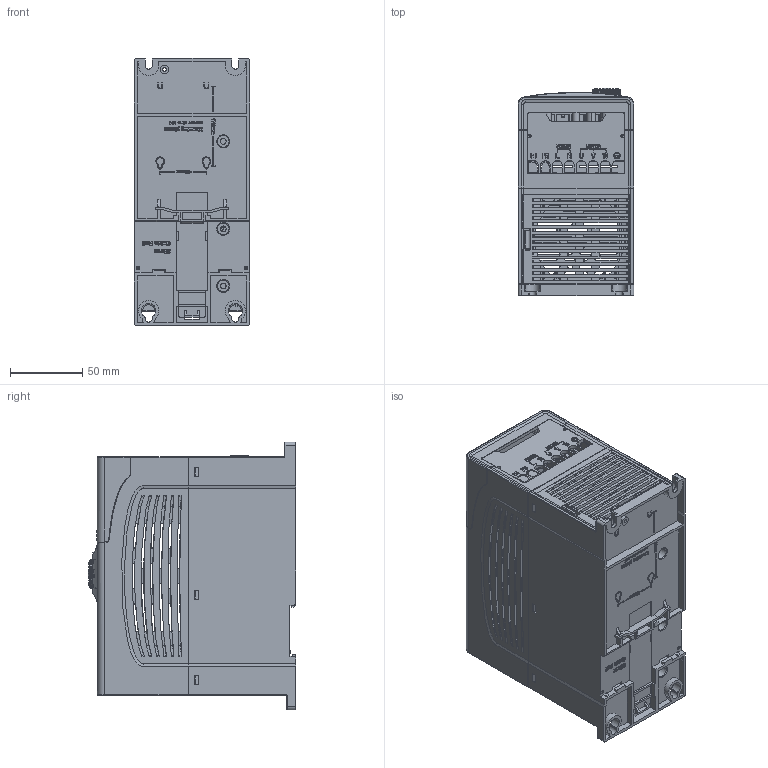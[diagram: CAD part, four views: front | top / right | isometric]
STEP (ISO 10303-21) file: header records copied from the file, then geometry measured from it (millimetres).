
FILE_DESCRIPTION((''),'2;1');
FILE_NAME('GD20-2R2-ONE_ASM_ASM_ASM','2016-12-13T',('Administrator'),(''),'PRO/ENGINEER BY PARAMETRIC TECHNOLOGY CORPORATION, 2010280','PRO/ENGINEER BY PARAMETRIC TECHNOLOGY CORPORATION, 2010280','');
FILE_SCHEMA(('CONFIG_CONTROL_DESIGN'));
Products named in the file (25): MSBR-24; MSBR-23; MSBR-22; MSBR-21; MSBR-20; MSBR-19; MSBR-18; MSBR-17; MSBR-16; MSBR-15; MSBR-14; PRT0025; PRT0026; PRT0028; PRT0029; PRT0030; PRT0031; PRT0032; PRT0033; PRT0034; PRT0035; PRT0036; PRT0037; ASM0001_ASM; GD20-2R2-ONE_ASM_ASM_ASM
Assembly tree (24 placements, depth 3):
  GD20-2R2-ONE_ASM_ASM_ASM
    ASM0001_ASM
      MSBR-24
      MSBR-23
      MSBR-22
      MSBR-21
      MSBR-20
      MSBR-19
      MSBR-18
      MSBR-17
      MSBR-16
      MSBR-15
      MSBR-14
      PRT0025
      PRT0026
      PRT0028
      PRT0029
      PRT0030
      PRT0031
      PRT0032
      PRT0033
      PRT0034
      PRT0035
      PRT0036
      PRT0037
Bounding box: 80 x 143.54 x 185 mm (x, y, z)
Volume: 494480.4 mm3; surface area: 528002.6 mm2
Topology: 23 solids, 25 shells, 11243 faces, 33640 edges, 22352 vertices
Faces by surface type: plane 6137, cylinder 2705, extrusion 1467, bspline 424, torus 175, sphere 142, cone 137, revolution 56
Entity records: 438126 total; most frequent: CARTESIAN_POINT 140018, ORIENTED_EDGE 66884, DIRECTION 55038, EDGE_CURVE 33442, VERTEX_POINT 22352, VECTOR 22118, LINE 20651, AXIS2_PLACEMENT_3D 16432
